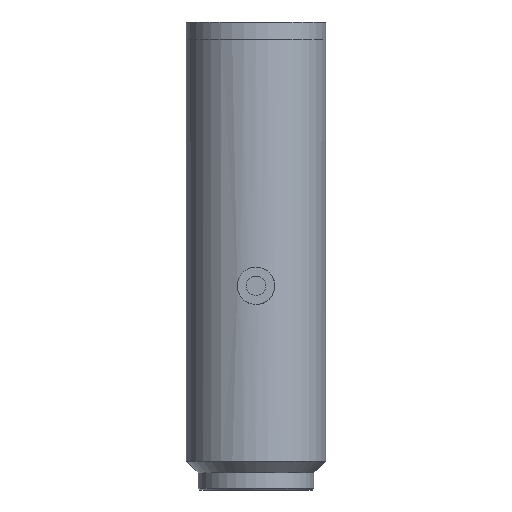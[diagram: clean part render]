
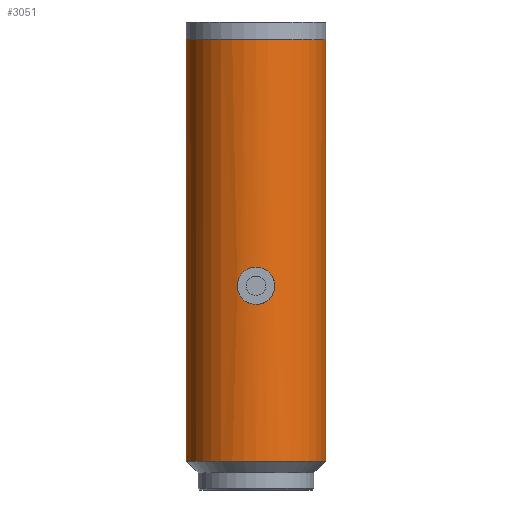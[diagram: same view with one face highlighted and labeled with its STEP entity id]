
A CAD part, left-side view. The second image highlights one B-rep face of the part: STEP entity #3051.
In plain terms, the highlighted cylindrical face has radius 41 mm (diameter 82 mm), a full revolution.
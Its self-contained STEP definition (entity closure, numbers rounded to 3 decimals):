
#52=FACE_BOUND('',#521,.T.);
#190=B_SPLINE_CURVE_WITH_KNOTS('',3,(#5171,#5172,#5173,#5174,#5175,#5176,
#5177,#5178,#5179,#5180),.UNSPECIFIED.,.F.,.F.,(4,2,2,2,4),(1.666,
2.083,2.499,2.916,3.333),
 .UNSPECIFIED.);
#191=B_SPLINE_CURVE_WITH_KNOTS('',3,(#5182,#5183,#5184,#5185,#5186,#5187,
#5188,#5189,#5190,#5191,#5192,#5193,#5194,#5195,#5196,#5197,#5198,#5199,
#5200),.UNSPECIFIED.,.F.,.F.,(4,2,2,2,3,2,2,2,4),(4.999,5.415,
5.832,6.248,6.665,7.082,7.498,
7.915,8.331),.UNSPECIFIED.);
#192=B_SPLINE_CURVE_WITH_KNOTS('',3,(#5201,#5202,#5203,#5204,#5205,#5206,
#5207,#5208,#5209,#5210),.UNSPECIFIED.,.F.,.F.,(4,2,2,2,4),(3.333,
3.749,4.166,4.582,4.999),
 .UNSPECIFIED.);
#221=CYLINDRICAL_SURFACE('',#3408,41.);
#340=FACE_OUTER_BOUND('',#520,.T.);
#520=EDGE_LOOP('',(#2382,#2383,#2384,#2385,#2386,#2387,#2388,#2389));
#521=EDGE_LOOP('',(#2390,#2391,#2392));
#777=LINE('',#5248,#905);
#778=LINE('',#5257,#906);
#779=LINE('',#5261,#907);
#905=VECTOR('',#4113,10.);
#906=VECTOR('',#4114,10.);
#907=VECTOR('',#4119,41.);
#1088=CIRCLE('',#3405,41.);
#1089=CIRCLE('',#3406,41.);
#1090=CIRCLE('',#3409,41.);
#1091=CIRCLE('',#3410,41.);
#1412=VERTEX_POINT('',#5169);
#1413=VERTEX_POINT('',#5170);
#1414=VERTEX_POINT('',#5181);
#1425=VERTEX_POINT('',#5240);
#1426=VERTEX_POINT('',#5241);
#1427=VERTEX_POINT('',#5243);
#1428=VERTEX_POINT('',#5247);
#1430=VERTEX_POINT('',#5253);
#1431=VERTEX_POINT('',#5259);
#1779=EDGE_CURVE('',#1412,#1413,#190,.T.);
#1780=EDGE_CURVE('',#1414,#1412,#191,.T.);
#1781=EDGE_CURVE('',#1413,#1414,#192,.T.);
#1795=EDGE_CURVE('',#1425,#1426,#1088,.T.);
#1797=EDGE_CURVE('',#1426,#1427,#1089,.T.);
#1798=EDGE_CURVE('',#1428,#1425,#777,.T.);
#1801=EDGE_CURVE('',#1427,#1430,#778,.T.);
#1802=EDGE_CURVE('',#1431,#1431,#1090,.T.);
#1803=EDGE_CURVE('',#1431,#1426,#779,.T.);
#1804=EDGE_CURVE('',#1428,#1430,#1091,.T.);
#2382=ORIENTED_EDGE('',*,*,#1802,.T.);
#2383=ORIENTED_EDGE('',*,*,#1803,.T.);
#2384=ORIENTED_EDGE('',*,*,#1797,.T.);
#2385=ORIENTED_EDGE('',*,*,#1801,.T.);
#2386=ORIENTED_EDGE('',*,*,#1804,.F.);
#2387=ORIENTED_EDGE('',*,*,#1798,.T.);
#2388=ORIENTED_EDGE('',*,*,#1795,.T.);
#2389=ORIENTED_EDGE('',*,*,#1803,.F.);
#2390=ORIENTED_EDGE('',*,*,#1779,.T.);
#2391=ORIENTED_EDGE('',*,*,#1781,.T.);
#2392=ORIENTED_EDGE('',*,*,#1780,.T.);
#3051=ADVANCED_FACE('',(#340,#52),#221,.T.);
#3405=AXIS2_PLACEMENT_3D('',#5242,#4106,#4107);
#3406=AXIS2_PLACEMENT_3D('',#5245,#4109,#4110);
#3408=AXIS2_PLACEMENT_3D('',#5258,#4115,#4116);
#3409=AXIS2_PLACEMENT_3D('',#5260,#4117,#4118);
#3410=AXIS2_PLACEMENT_3D('',#5262,#4120,#4121);
#4106=DIRECTION('center_axis',(0.,0.,1.));
#4107=DIRECTION('ref_axis',(-1.,0.,0.));
#4109=DIRECTION('center_axis',(0.,0.,1.));
#4110=DIRECTION('ref_axis',(-1.,0.,0.));
#4113=DIRECTION('',(0.,0.,1.));
#4114=DIRECTION('',(0.,0.,-1.));
#4115=DIRECTION('center_axis',(0.,0.,1.));
#4116=DIRECTION('ref_axis',(-1.,0.,0.));
#4117=DIRECTION('center_axis',(0.,0.,-1.));
#4118=DIRECTION('ref_axis',(-1.,0.,0.));
#4119=DIRECTION('',(0.,0.,-1.));
#4120=DIRECTION('center_axis',(0.,0.,-1.));
#4121=DIRECTION('ref_axis',(-1.,0.,0.));
#5169=CARTESIAN_POINT('',(-41.,0.,121.));
#5170=CARTESIAN_POINT('',(-39.497,-11.,110.));
#5171=CARTESIAN_POINT('Ctrl Pts',(-41.,0.,121.));
#5172=CARTESIAN_POINT('Ctrl Pts',(-41.,-1.388,121.));
#5173=CARTESIAN_POINT('Ctrl Pts',(-40.922,-2.865,120.721));
#5174=CARTESIAN_POINT('Ctrl Pts',(-40.642,-5.573,119.596));
#5175=CARTESIAN_POINT('Ctrl Pts',(-40.443,-6.805,118.751));
#5176=CARTESIAN_POINT('Ctrl Pts',(-40.067,-8.751,116.805));
#5177=CARTESIAN_POINT('Ctrl Pts',(-39.865,-9.596,115.573));
#5178=CARTESIAN_POINT('Ctrl Pts',(-39.578,-10.721,112.865));
#5179=CARTESIAN_POINT('Ctrl Pts',(-39.497,-11.,111.389));
#5180=CARTESIAN_POINT('Ctrl Pts',(-39.497,-11.,110.));
#5181=CARTESIAN_POINT('',(-41.,0.,99.));
#5182=CARTESIAN_POINT('Ctrl Pts',(-41.,0.,99.));
#5183=CARTESIAN_POINT('Ctrl Pts',(-41.,1.388,99.));
#5184=CARTESIAN_POINT('Ctrl Pts',(-40.922,2.865,99.279));
#5185=CARTESIAN_POINT('Ctrl Pts',(-40.642,5.573,100.404));
#5186=CARTESIAN_POINT('Ctrl Pts',(-40.443,6.805,101.249));
#5187=CARTESIAN_POINT('Ctrl Pts',(-40.067,8.751,103.195));
#5188=CARTESIAN_POINT('Ctrl Pts',(-39.865,9.596,104.427));
#5189=CARTESIAN_POINT('Ctrl Pts',(-39.578,10.721,107.135));
#5190=CARTESIAN_POINT('Ctrl Pts',(-39.497,11.,108.611));
#5191=CARTESIAN_POINT('Ctrl Pts',(-39.497,11.,110.));
#5192=CARTESIAN_POINT('Ctrl Pts',(-39.497,11.,111.389));
#5193=CARTESIAN_POINT('Ctrl Pts',(-39.578,10.721,112.865));
#5194=CARTESIAN_POINT('Ctrl Pts',(-39.865,9.596,115.573));
#5195=CARTESIAN_POINT('Ctrl Pts',(-40.067,8.751,116.805));
#5196=CARTESIAN_POINT('Ctrl Pts',(-40.443,6.805,118.751));
#5197=CARTESIAN_POINT('Ctrl Pts',(-40.642,5.573,119.596));
#5198=CARTESIAN_POINT('Ctrl Pts',(-40.922,2.865,120.721));
#5199=CARTESIAN_POINT('Ctrl Pts',(-41.,1.388,121.));
#5200=CARTESIAN_POINT('Ctrl Pts',(-41.,0.,121.));
#5201=CARTESIAN_POINT('Ctrl Pts',(-39.497,-11.,110.));
#5202=CARTESIAN_POINT('Ctrl Pts',(-39.497,-11.,108.611));
#5203=CARTESIAN_POINT('Ctrl Pts',(-39.578,-10.721,107.135));
#5204=CARTESIAN_POINT('Ctrl Pts',(-39.865,-9.596,104.427));
#5205=CARTESIAN_POINT('Ctrl Pts',(-40.067,-8.751,103.195));
#5206=CARTESIAN_POINT('Ctrl Pts',(-40.443,-6.805,101.249));
#5207=CARTESIAN_POINT('Ctrl Pts',(-40.642,-5.573,100.404));
#5208=CARTESIAN_POINT('Ctrl Pts',(-40.922,-2.865,99.279));
#5209=CARTESIAN_POINT('Ctrl Pts',(-41.,-1.388,99.));
#5210=CARTESIAN_POINT('Ctrl Pts',(-41.,0.,99.));
#5240=CARTESIAN_POINT('',(35.,-21.354,81.));
#5241=CARTESIAN_POINT('',(41.,0.,81.));
#5242=CARTESIAN_POINT('Origin',(0.,0.,81.));
#5243=CARTESIAN_POINT('',(35.,21.354,81.));
#5245=CARTESIAN_POINT('Origin',(0.,0.,81.));
#5247=CARTESIAN_POINT('',(35.,-21.354,7.));
#5248=CARTESIAN_POINT('',(35.,-21.354,0.));
#5253=CARTESIAN_POINT('',(35.,21.354,7.));
#5257=CARTESIAN_POINT('',(35.,21.354,0.));
#5258=CARTESIAN_POINT('Origin',(0.,0.,0.));
#5259=CARTESIAN_POINT('',(41.,0.,255.));
#5260=CARTESIAN_POINT('Origin',(0.,0.,255.));
#5261=CARTESIAN_POINT('',(41.,0.,0.));
#5262=CARTESIAN_POINT('Origin',(0.,0.,7.));
